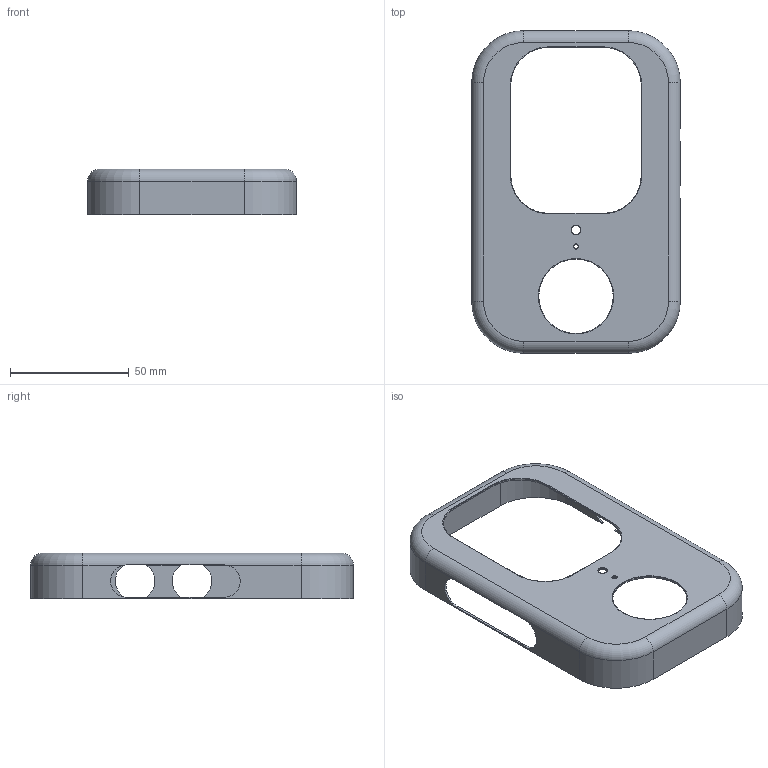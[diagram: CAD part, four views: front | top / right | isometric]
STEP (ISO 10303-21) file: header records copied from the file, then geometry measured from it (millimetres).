
FILE_DESCRIPTION(('Open CASCADE Model'),'2;1');
FILE_NAME('Open CASCADE Shape Model','2026-09-06T11:30:36',('Author'),( 'Open CASCADE'),'Open CASCADE STEP processor 7.7','Open CASCADE 7.7' ,'Unknown');
FILE_SCHEMA(('AUTOMOTIVE_DESIGN { 1 0 10303 214 1 1 1 1 }'));
Length unit declared in the file: millimetre
Products named in the file (1): Open CASCADE STEP translator 7.7 18
Bounding box: 88 x 136 x 19.25 mm (x, y, z)
Volume: 10062.7 mm3; surface area: 25904.5 mm2
Topology: 1 solids, 1 shells, 92 faces, 249 edges, 157 vertices
Faces by surface type: cylinder 43, plane 34, torus 15
Full cylindrical faces by diameter (mm): 1.8 x1, 3.7 x1, 31.4 x1
Entity records: 6464 total; most frequent: CARTESIAN_POINT 1475, DIRECTION 953, LINE 511, VECTOR 511, ORIENTED_EDGE 498, PCURVE 498, DEFINITIONAL_REPRESENTATION 498, EDGE_CURVE 249
